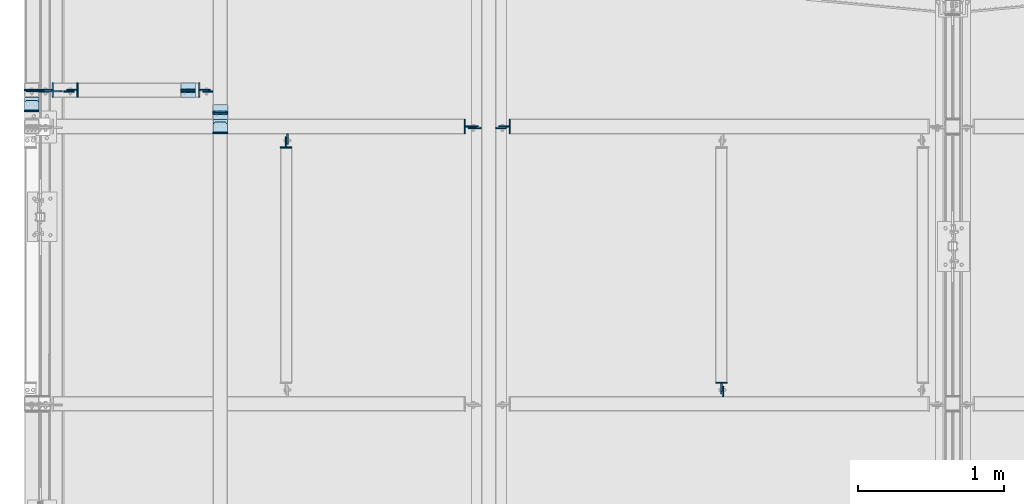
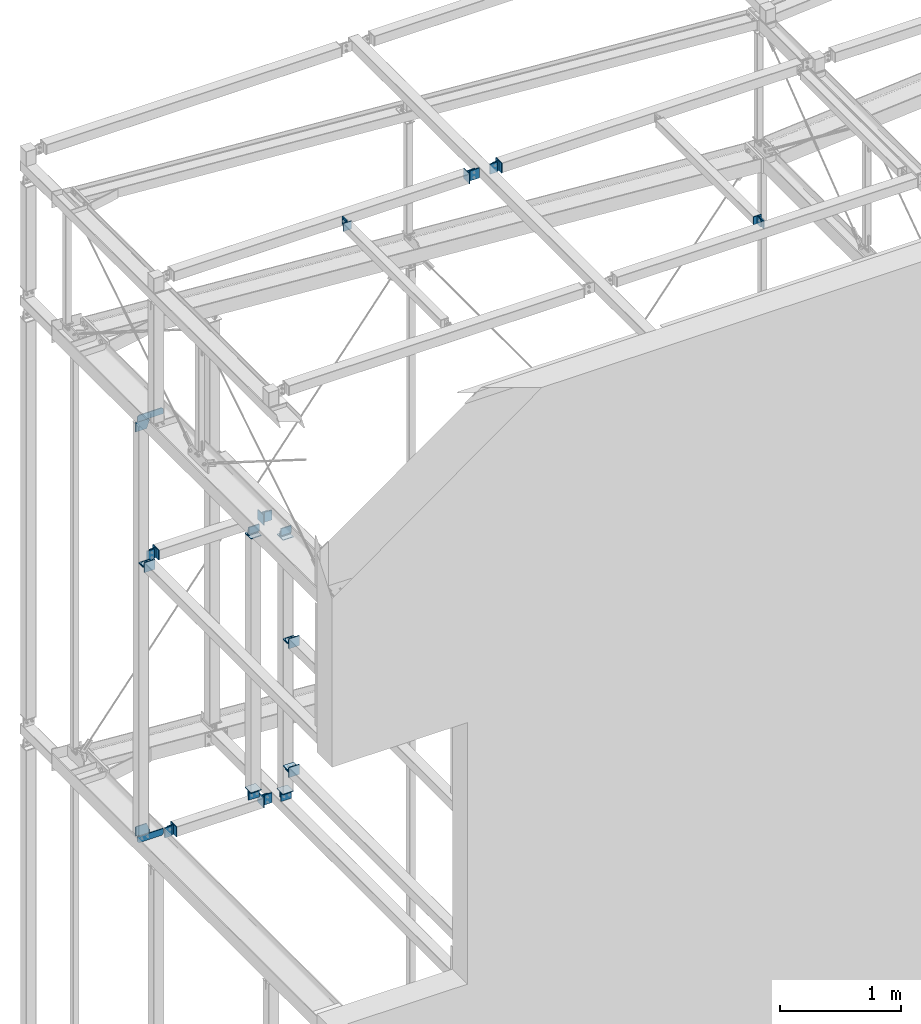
# One storey, part 115 of 271: 49 plates, 18 elements without a shape of their own.
"""IFC2X3 building model written with IfcOpenShell, lengths in millimetres."""

from ifc_helpers import new_model, si_unit, frame, origin_with_axes, place, context, subcontext, project, spatial, polyline, outline, extrude, material, type_object, element, aggregate, save


model = new_model("IFC2X3")

# Units and contexts
model_context = context("Model", 3, precision=1e-05, world=origin_with_axes())
body_context = subcontext(model_context, "Body", "Model", "MODEL_VIEW")
ifc_project = project(units=[si_unit("LENGTHUNIT", "METRE", prefix="MILLI"), si_unit("AREAUNIT", "SQUARE_METRE"), si_unit("VOLUMEUNIT", "CUBIC_METRE"), si_unit("MASSUNIT", "GRAM", prefix="KILO"), si_unit("TIMEUNIT", "SECOND"), si_unit("PLANEANGLEUNIT", "RADIAN"), si_unit("SOLIDANGLEUNIT", "STERADIAN"), si_unit("THERMODYNAMICTEMPERATUREUNIT", "DEGREE_CELSIUS"), si_unit("LUMINOUSINTENSITYUNIT", "LUMEN")], contexts=[model_context])

# Site, building, storey
site_placement = place(None, origin_with_axes())
site = spatial("IfcSite", under=ifc_project, at=site_placement, Name="Undefined", CompositionType="ELEMENT")
building_placement = place(site_placement, origin_with_axes())
building = spatial("IfcBuilding", under=site, at=building_placement, Name="Undefined", CompositionType="ELEMENT")
storey_placement = place(building_placement, origin_with_axes())
storey = spatial("IfcBuildingStorey", under=building, at=storey_placement, Name="Undefined", CompositionType="ELEMENT", Elevation=0.0)

# Assembly, plates
assembly_1_placement = place(storey_placement, origin_with_axes())
assembly_1 = element("IfcElementAssembly", 1, at=assembly_1_placement, inside=storey, AssemblyPlace="NOTDEFINED", PredefinedType="RIGID_FRAME")
ifc_material = material(Name="STEEL/S355JR")
plate_type_1 = type_object("IfcPlateType", Name="BL8*100", PredefinedType="NOTDEFINED")
plate_1_placement = place(assembly_1_placement, frame((1160.37568709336, 2999.0521198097, 14485.8499999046), z_axis=(0.0, 0.0, -1.0), x_axis=(-1.0, 0.0, 1.38777878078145e-17)))
plate_1 = element("IfcPlate", 2, at=plate_1_placement, type_object=plate_type_1, material=ifc_material, Name="BLACHA", ObjectType="BL8*100", context=body_context, shape_type="SweptSolid", body=[
    extrude(outline(polyline([(0.0, 0.0), (100.0, 0.0), (100.0, 100.0), (1.59161572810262e-12, 100.0), (0.0, 0.0)])), frame((0.0, 0.0, -4.0), z_axis=(0.0, 0.0, 1.0), x_axis=(1.0, 0.0, 0.0)), (0.0, 0.0, 1.0), 8.0),
])
plate_2_placement = place(assembly_1_placement, frame((1060.37568709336, 2999.0521198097, 17050.3499999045), z_axis=(0.0, 0.0, 1.0), x_axis=(1.0, 0.0, 0.0)))
plate_2 = element("IfcPlate", 3, at=plate_2_placement, type_object=plate_type_1, material=ifc_material, Name="BLACHA", ObjectType="BL8*100", context=body_context, shape_type="SweptSolid", body=[
    extrude(outline(polyline([(0.0, 0.0), (100.0, 0.0), (100.0, 100.0), (1.59161572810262e-12, 100.0), (0.0, 0.0)])), frame((0.0, 0.0, -4.0), z_axis=(0.0, 0.0, 1.0), x_axis=(1.0, 0.0, 0.0)), (0.0, 0.0, 1.0), 8.0),
])

# Assembly, plate
assembly_2_placement = place(storey_placement, origin_with_axes())
assembly_2 = element("IfcElementAssembly", 4, at=assembly_2_placement, inside=storey, AssemblyPlace="NOTDEFINED", PredefinedType="RIGID_FRAME")
plate_3_placement = place(assembly_2_placement, frame((1280.37568709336, 2755.0521198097, 14814.3499999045), z_axis=(0.0, 1.0, 0.0), x_axis=(1.0, 0.0, 0.0)))
plate_3 = element("IfcPlate", 5, at=plate_3_placement, type_object=plate_type_1, material=ifc_material, Name="BLACHA", ObjectType="BL8*100", context=body_context, shape_type="SweptSolid", body=[
    extrude(outline(polyline([(0.0, 0.0), (100.0, 0.0), (100.0, 100.0), (1.59161572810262e-12, 100.0), (0.0, 0.0)])), frame((0.0, 0.0, -4.0), z_axis=(0.0, 0.0, 1.0), x_axis=(1.0, 0.0, 0.0)), (0.0, 0.0, 1.0), 8.0),
])

assembly_3_placement = place(storey_placement, origin_with_axes())
assembly_3 = element("IfcElementAssembly", 6, at=assembly_3_placement, inside=storey, AssemblyPlace="NOTDEFINED", PredefinedType="RIGID_FRAME")
plate_4_placement = place(assembly_3_placement, frame((1380.37568709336, 2755.0521198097, 16014.3499999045), z_axis=(0.0, 1.0, 0.0), x_axis=(-1.0, 0.0, 1.38777878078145e-17)))
plate_4 = element("IfcPlate", 7, at=plate_4_placement, type_object=plate_type_1, material=ifc_material, Name="BLACHA", ObjectType="BL8*100", context=body_context, shape_type="SweptSolid", body=[
    extrude(outline(polyline([(0.0, 0.0), (100.0, 0.0), (100.0, 100.0), (1.59161572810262e-12, 100.0), (0.0, 0.0)])), frame((0.0, 0.0, -4.0), z_axis=(0.0, 0.0, 1.0), x_axis=(1.0, 0.0, 0.0)), (0.0, 0.0, 1.0), 8.0),
])

assembly_4_placement = place(storey_placement, origin_with_axes())
assembly_4 = element("IfcElementAssembly", 8, at=assembly_4_placement, inside=storey, AssemblyPlace="NOTDEFINED", PredefinedType="RIGID_FRAME")
plate_5_placement = place(assembly_4_placement, frame((88.3756870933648, 2905.05211980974, 17144.3499999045), z_axis=(0.0, 1.0, 0.0), x_axis=(-1.0, 0.0, 1.38777878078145e-17)))
plate_5 = element("IfcPlate", 9, at=plate_5_placement, type_object=plate_type_1, material=ifc_material, Name="BLACHA", ObjectType="BL8*100", context=body_context, shape_type="SweptSolid", body=[
    extrude(outline(polyline([(0.0, 0.0), (100.0, 0.0), (100.0, 100.0), (1.59161572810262e-12, 100.0), (0.0, 0.0)])), frame((0.0, 0.0, -4.0), z_axis=(0.0, 0.0, 1.0), x_axis=(1.0, 0.0, 0.0)), (0.0, 0.0, 1.0), 8.0),
])

assembly_5_placement = place(storey_placement, origin_with_axes())
assembly_5 = element("IfcElementAssembly", 10, at=assembly_5_placement, inside=storey, AssemblyPlace="NOTDEFINED", PredefinedType="RIGID_FRAME")
plate_6_placement = place(assembly_5_placement, frame((182.375687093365, 2999.05211980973, 17144.3499999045), z_axis=(-1.0, 0.0, 1.38777878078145e-17), x_axis=(0.0, 0.0, 1.0)))
plate_6 = element("IfcPlate", 11, at=plate_6_placement, type_object=plate_type_1, material=ifc_material, Name="BLACHA", ObjectType="BL8*100", context=body_context, shape_type="SweptSolid", body=[
    extrude(outline(polyline([(0.0, 0.0), (100.0, 0.0), (100.0, 100.0), (1.59161572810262e-12, 100.0), (0.0, 0.0)])), frame((0.0, 0.0, -4.0), z_axis=(0.0, 0.0, 1.0), x_axis=(1.0, 0.0, 0.0)), (0.0, 0.0, 1.0), 8.0),
])

assembly_6_placement = place(storey_placement, origin_with_axes())
assembly_6 = element("IfcElementAssembly", 12, at=assembly_6_placement, inside=storey, AssemblyPlace="NOTDEFINED", PredefinedType="RIGID_FRAME")
plate_7_placement = place(assembly_6_placement, frame((352.375687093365, 2999.0521198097, 14291.8499999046), z_axis=(-1.0, 0.0, 1.38777878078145e-17), x_axis=(0.0, 0.0, 1.0)))
plate_7 = element("IfcPlate", 13, at=plate_7_placement, type_object=plate_type_1, material=ifc_material, Name="BLACHA", ObjectType="BL8*100", context=body_context, shape_type="SweptSolid", body=[
    extrude(outline(polyline([(0.0, 0.0), (100.0, 0.0), (100.0, 100.0), (1.59161572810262e-12, 100.0), (0.0, 0.0)])), frame((0.0, 0.0, -4.0), z_axis=(0.0, 0.0, 1.0), x_axis=(1.0, 0.0, 0.0)), (0.0, 0.0, 1.0), 8.0),
])

# Plate
plate_8_placement = place(assembly_5_placement, frame((1186.37568709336, 2999.05211980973, 17244.3499999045), z_axis=(1.0, 0.0, 0.0), x_axis=(0.0, 0.0, -1.0)))
plate_8 = element("IfcPlate", 14, at=plate_8_placement, type_object=plate_type_1, material=ifc_material, Name="BLACHA", ObjectType="BL8*100", context=body_context, shape_type="SweptSolid", body=[
    extrude(outline(polyline([(0.0, 0.0), (100.0, 0.0), (100.0, 100.0), (1.59161572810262e-12, 100.0), (0.0, 0.0)])), frame((0.0, 0.0, -4.0), z_axis=(0.0, 0.0, 1.0), x_axis=(1.0, 0.0, 0.0)), (0.0, 0.0, 1.0), 8.0),
])

plate_9_placement = place(assembly_6_placement, frame((1186.37568709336, 2999.0521198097, 14391.8499999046), z_axis=(1.0, 0.0, 0.0), x_axis=(0.0, 0.0, -1.0)))
plate_9 = element("IfcPlate", 15, at=plate_9_placement, type_object=plate_type_1, material=ifc_material, Name="BLACHA", ObjectType="BL8*100", context=body_context, shape_type="SweptSolid", body=[
    extrude(outline(polyline([(0.0, 0.0), (100.0, 0.0), (100.0, 100.0), (1.59161572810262e-12, 100.0), (0.0, 0.0)])), frame((0.0, 0.0, -4.0), z_axis=(0.0, 0.0, 1.0), x_axis=(1.0, 0.0, 0.0)), (0.0, 0.0, 1.0), 8.0),
])

# Assembly, plates
assembly_7_placement = place(storey_placement, origin_with_axes())
assembly_7 = element("IfcElementAssembly", 16, at=assembly_7_placement, inside=storey, AssemblyPlace="NOTDEFINED", PredefinedType="RIGID_FRAME")
plate_10_placement = place(assembly_7_placement, frame((1280.37568709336, 2849.0521198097, 17050.3499999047), z_axis=(0.0, 0.0, 1.0), x_axis=(1.0, 0.0, 0.0)))
plate_10 = element("IfcPlate", 17, at=plate_10_placement, type_object=plate_type_1, material=ifc_material, Name="BLACHA", ObjectType="BL8*100", context=body_context, shape_type="SweptSolid", body=[
    extrude(outline(polyline([(0.0, 0.0), (100.0, 0.0), (100.0, 100.0), (1.59161572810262e-12, 100.0), (0.0, 0.0)])), frame((0.0, 0.0, -4.0), z_axis=(0.0, 0.0, 1.0), x_axis=(1.0, 0.0, 0.0)), (0.0, 0.0, 1.0), 8.0),
])
plate_11_placement = place(assembly_7_placement, frame((1380.37568709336, 2849.0521198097, 14485.8499999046), z_axis=(0.0, 0.0, -1.0), x_axis=(-1.0, 0.0, 1.38777878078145e-17)))
plate_11 = element("IfcPlate", 18, at=plate_11_placement, type_object=plate_type_1, material=ifc_material, Name="BLACHA", ObjectType="BL8*100", context=body_context, shape_type="SweptSolid", body=[
    extrude(outline(polyline([(0.0, 0.0), (100.0, 0.0), (100.0, 100.0), (1.59161572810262e-12, 100.0), (0.0, 0.0)])), frame((0.0, 0.0, -4.0), z_axis=(0.0, 0.0, 1.0), x_axis=(1.0, 0.0, 0.0)), (0.0, 0.0, 1.0), 8.0),
])

# Assembly, plate
assembly_8_placement = place(storey_placement, origin_with_axes())
assembly_8 = element("IfcElementAssembly", 19, at=assembly_8_placement, inside=storey, AssemblyPlace="NOTDEFINED", PredefinedType="RIGID_FRAME")
plate_12_placement = place(assembly_8_placement, frame((3312.37568709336, 2749.32498425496, 20104.3499999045), z_axis=(-1.0, 0.0, 1.38777878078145e-17), x_axis=(0.0, 0.0, 1.0)))
plate_12 = element("IfcPlate", 20, at=plate_12_placement, type_object=plate_type_1, material=ifc_material, Name="BLACHA", ObjectType="BL8*100", context=body_context, shape_type="SweptSolid", body=[
    extrude(outline(polyline([(0.0, 0.0), (100.0, 0.0), (100.0, 100.0), (1.59161572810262e-12, 100.0), (0.0, 0.0)])), frame((0.0, 0.0, -4.0), z_axis=(0.0, 0.0, 1.0), x_axis=(1.0, 0.0, 0.0)), (0.0, 0.0, 1.0), 8.0),
])

assembly_9_placement = place(storey_placement, origin_with_axes())
assembly_9 = element("IfcElementAssembly", 21, at=assembly_9_placement, inside=storey, AssemblyPlace="NOTDEFINED", PredefinedType="RIGID_FRAME")
plate_13_placement = place(assembly_9_placement, frame((3004.37568709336, 2749.32498425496, 20204.3499999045), z_axis=(1.0, 0.0, 0.0), x_axis=(0.0, 0.0, -1.0)))
plate_13 = element("IfcPlate", 22, at=plate_13_placement, type_object=plate_type_1, material=ifc_material, Name="BLACHA", ObjectType="BL8*100", context=body_context, shape_type="SweptSolid", body=[
    extrude(outline(polyline([(0.0, 0.0), (100.0, 0.0), (100.0, 100.0), (1.59161572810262e-12, 100.0), (0.0, 0.0)])), frame((0.0, 0.0, -4.0), z_axis=(0.0, 0.0, 1.0), x_axis=(1.0, 0.0, 0.0)), (0.0, 0.0, 1.0), 8.0),
])

# Plate
plate_type_2 = type_object("IfcPlateType", Name="BL10*70", PredefinedType="NOTDEFINED")
plate_14_placement = place(assembly_1_placement, frame((1160.37568709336, 3049.0521198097, 14426.8499999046), z_axis=(0.0, 1.0, 0.0), x_axis=(-0.707106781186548, 0.0, -0.707106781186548)))
plate_14 = element("IfcPlate", 23, at=plate_14_placement, type_object=plate_type_2, material=ifc_material, Name="BLACHA", ObjectType="BL10*70", context=body_context, shape_type="SweptSolid", body=[
    extrude(outline(polyline([(0.0, 0.0), (21.2132034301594, 1.09139364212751e-11), (70.7106781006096, 49.4974746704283), (70.7106781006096, 70.7106781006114), (31.8198051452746, 109.601554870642), (-38.890872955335, 38.8908729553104), (0.0, 0.0)])), frame((0.0, 0.0, -5.0), z_axis=(0.0, 0.0, 1.0), x_axis=(1.0, 0.0, 0.0)), (0.0, 0.0, 1.0), 10.0),
])

plate_15_placement = place(assembly_6_placement, frame((1160.37568709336, 3039.0521198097, 14391.8499999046), z_axis=(0.0, 1.0, 0.0), x_axis=(-1.0, 0.0, 1.38777878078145e-17)))
plate_15 = element("IfcPlate", 24, at=plate_15_placement, type_object=plate_type_2, material=ifc_material, Name="BLACHA", ObjectType="BL10*70", context=body_context, shape_type="SweptSolid", body=[
    extrude(outline(polyline([(0.0, 0.0), (100.0, 0.0), (100.0, 70.0), (0.0, 70.0), (0.0, 0.0)])), frame((0.0, 0.0, -5.0), z_axis=(0.0, 0.0, 1.0), x_axis=(1.0, 0.0, 0.0)), (0.0, 0.0, 1.0), 10.0),
])

plate_16_placement = place(assembly_1_placement, frame((1060.37568709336, 3049.0521198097, 17109.3499999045), z_axis=(0.0, 1.0, 0.0), x_axis=(0.707106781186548, 0.0, 0.707106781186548)))
plate_16 = element("IfcPlate", 25, at=plate_16_placement, type_object=plate_type_2, material=ifc_material, Name="BLACHA", ObjectType="BL10*70", context=body_context, shape_type="SweptSolid", body=[
    extrude(outline(polyline([(0.0, 0.0), (21.2132034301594, 1.09139364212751e-11), (70.7106781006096, 49.4974746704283), (70.7106781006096, 70.7106781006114), (31.8198051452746, 109.601554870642), (-38.890872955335, 38.8908729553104), (0.0, 0.0)])), frame((0.0, 0.0, -5.0), z_axis=(0.0, 0.0, 1.0), x_axis=(1.0, 0.0, 0.0)), (0.0, 0.0, 1.0), 10.0),
])

aggregate(assembly_1, [plate_1, plate_14, plate_2, plate_16])

plate_17_placement = place(assembly_5_placement, frame((1060.37568709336, 3039.0521198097, 17144.3499999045), z_axis=(0.0, 1.0, 0.0), x_axis=(1.0, 0.0, 0.0)))
plate_17 = element("IfcPlate", 26, at=plate_17_placement, type_object=plate_type_2, material=ifc_material, Name="BLACHA", ObjectType="BL10*70", context=body_context, shape_type="SweptSolid", body=[
    extrude(outline(polyline([(0.0, 0.0), (100.0, 0.0), (100.0, 70.0), (0.0, 70.0), (0.0, 0.0)])), frame((0.0, 0.0, -5.0), z_axis=(0.0, 0.0, 1.0), x_axis=(1.0, 0.0, 0.0)), (0.0, 0.0, 1.0), 10.0),
])

# Assembly, plate
assembly_10_placement = place(storey_placement, origin_with_axes())
assembly_10 = element("IfcElementAssembly", 27, at=assembly_10_placement, inside=storey, AssemblyPlace="NOTDEFINED", PredefinedType="RIGID_FRAME")
plate_18_placement = place(assembly_10_placement, frame((4763.37568709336, 984.32498425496, 20124.3499999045), z_axis=(-1.0, 0.0, 1.38777878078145e-17), x_axis=(0.0, -0.707106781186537, 0.707106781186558)))
plate_18 = element("IfcPlate", 28, at=plate_18_placement, type_object=plate_type_2, material=ifc_material, Name="BLACHA", ObjectType="BL10*70", context=body_context, shape_type="SweptSolid", body=[
    extrude(outline(polyline([(0.0, 0.0), (21.2132034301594, 1.09139364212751e-11), (56.5685424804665, 35.3553390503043), (56.568542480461, 56.5685424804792), (17.6776695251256, 95.4594192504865), (-38.890872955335, 38.8908729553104), (0.0, 0.0)])), frame((0.0, 0.0, -5.0), z_axis=(0.0, 0.0, 1.0), x_axis=(1.0, 0.0, 0.0)), (0.0, 0.0, 1.0), 10.0),
])

assembly_11_placement = place(storey_placement, origin_with_axes())
assembly_11 = element("IfcElementAssembly", 29, at=assembly_11_placement, inside=storey, AssemblyPlace="NOTDEFINED", PredefinedType="RIGID_FRAME")
plate_19_placement = place(assembly_11_placement, frame((4773.37568709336, 949.32498425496, 20124.3499999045), z_axis=(-1.0, 0.0, 1.38777878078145e-17), x_axis=(0.0, 0.0, 1.0)))
plate_19 = element("IfcPlate", 30, at=plate_19_placement, type_object=plate_type_2, material=ifc_material, Name="BLACHA", ObjectType="BL10*70", context=body_context, shape_type="SweptSolid", body=[
    extrude(outline(polyline([(0.0, 0.0), (80.0, 0.0), (80.0, 70.0), (0.0, 70.0), (0.0, 0.0)])), frame((0.0, 0.0, -5.0), z_axis=(0.0, 0.0, 1.0), x_axis=(1.0, 0.0, 0.0)), (0.0, 0.0, 1.0), 10.0),
])
aggregate(assembly_11, [plate_19])

assembly_12_placement = place(storey_placement, origin_with_axes())
assembly_12 = element("IfcElementAssembly", 31, at=assembly_12_placement, inside=storey, AssemblyPlace="NOTDEFINED", PredefinedType="RIGID_FRAME")
plate_20_placement = place(assembly_12_placement, frame((1781.37568709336, 2714.32498425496, 20204.3499999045), z_axis=(-1.0, 0.0, 1.38777878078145e-17), x_axis=(0.0, 0.707106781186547, -0.707106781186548)))
plate_20 = element("IfcPlate", 32, at=plate_20_placement, type_object=plate_type_2, material=ifc_material, Name="BLACHA", ObjectType="BL10*70", context=body_context, shape_type="SweptSolid", body=[
    extrude(outline(polyline([(0.0, 0.0), (21.2132034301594, 1.09139364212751e-11), (56.5685424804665, 35.3553390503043), (56.568542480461, 56.5685424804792), (17.6776695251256, 95.4594192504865), (-38.890872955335, 38.8908729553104), (0.0, 0.0)])), frame((0.0, 0.0, -5.0), z_axis=(0.0, 0.0, 1.0), x_axis=(1.0, 0.0, 0.0)), (0.0, 0.0, 1.0), 10.0),
])

# Plate
plate_21_placement = place(assembly_9_placement, frame((1791.37568709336, 2749.32498425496, 20204.3499999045), z_axis=(-1.0, 0.0, 1.38777878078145e-17), x_axis=(0.0, 0.0, -1.0)))
plate_21 = element("IfcPlate", 33, at=plate_21_placement, type_object=plate_type_2, material=ifc_material, Name="BLACHA", ObjectType="BL10*70", context=body_context, shape_type="SweptSolid", body=[
    extrude(outline(polyline([(0.0, 0.0), (80.0, 0.0), (80.0, 70.0), (0.0, 70.0), (0.0, 0.0)])), frame((0.0, 0.0, -5.0), z_axis=(0.0, 0.0, 1.0), x_axis=(1.0, 0.0, 0.0)), (0.0, 0.0, 1.0), 10.0),
])

plate_22_placement = place(assembly_2_placement, frame((1280.37568709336, 2814.0521198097, 14764.3499999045), z_axis=(0.0, 0.0, -1.0), x_axis=(0.707106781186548, 0.707106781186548, 0.0)))
plate_22 = element("IfcPlate", 34, at=plate_22_placement, type_object=plate_type_2, material=ifc_material, Name="BLACHA", ObjectType="BL10*70", context=body_context, shape_type="SweptSolid", body=[
    extrude(outline(polyline([(0.0, 0.0), (21.2132034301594, 1.09139364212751e-11), (70.7106781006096, 49.4974746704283), (70.7106781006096, 70.7106781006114), (31.8198051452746, 109.601554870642), (-38.890872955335, 38.8908729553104), (0.0, 0.0)])), frame((0.0, 0.0, -5.0), z_axis=(0.0, 0.0, 1.0), x_axis=(1.0, 0.0, 0.0)), (0.0, 0.0, 1.0), 10.0),
])

aggregate(assembly_2, [plate_3, plate_22])

plate_23_placement = place(assembly_7_placement, frame((1280.37568709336, 2849.0521198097, 14774.3499999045), z_axis=(0.0, 0.0, -1.0), x_axis=(1.0, 0.0, 0.0)))
plate_23 = element("IfcPlate", 35, at=plate_23_placement, type_object=plate_type_2, material=ifc_material, Name="BLACHA", ObjectType="BL10*70", context=body_context, shape_type="SweptSolid", body=[
    extrude(outline(polyline([(0.0, 0.0), (100.0, 0.0), (100.0, 70.0), (0.0, 70.0), (0.0, 0.0)])), frame((0.0, 0.0, -5.0), z_axis=(0.0, 0.0, 1.0), x_axis=(1.0, 0.0, 0.0)), (0.0, 0.0, 1.0), 10.0),
])

plate_24_placement = place(assembly_3_placement, frame((1380.37568709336, 2814.0521198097, 16064.3499999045), z_axis=(0.0, 0.0, 1.0), x_axis=(-0.707106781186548, 0.707106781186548, 0.0)))
plate_24 = element("IfcPlate", 36, at=plate_24_placement, type_object=plate_type_2, material=ifc_material, Name="BLACHA", ObjectType="BL10*70", context=body_context, shape_type="SweptSolid", body=[
    extrude(outline(polyline([(0.0, 0.0), (21.2132034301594, 1.09139364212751e-11), (70.7106781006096, 49.4974746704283), (70.7106781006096, 70.7106781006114), (31.8198051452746, 109.601554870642), (-38.890872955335, 38.8908729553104), (0.0, 0.0)])), frame((0.0, 0.0, -5.0), z_axis=(0.0, 0.0, 1.0), x_axis=(1.0, 0.0, 0.0)), (0.0, 0.0, 1.0), 10.0),
])

aggregate(assembly_3, [plate_4, plate_24])

plate_25_placement = place(assembly_7_placement, frame((1380.37568709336, 2849.0521198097, 16054.3499999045), z_axis=(0.0, 0.0, 1.0), x_axis=(-1.0, 0.0, 1.38777878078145e-17)))
plate_25 = element("IfcPlate", 37, at=plate_25_placement, type_object=plate_type_2, material=ifc_material, Name="BLACHA", ObjectType="BL10*70", context=body_context, shape_type="SweptSolid", body=[
    extrude(outline(polyline([(0.0, 0.0), (100.0, 0.0), (100.0, 70.0), (0.0, 70.0), (0.0, 0.0)])), frame((0.0, 0.0, -5.0), z_axis=(0.0, 0.0, 1.0), x_axis=(1.0, 0.0, 0.0)), (0.0, 0.0, 1.0), 10.0),
])

plate_26_placement = place(assembly_4_placement, frame((88.3756870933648, 2964.05211980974, 17194.3499999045), z_axis=(0.0, 0.0, 1.0), x_axis=(-0.707106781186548, 0.707106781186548, 0.0)))
plate_26 = element("IfcPlate", 38, at=plate_26_placement, type_object=plate_type_2, material=ifc_material, Name="BLACHA", ObjectType="BL10*70", context=body_context, shape_type="SweptSolid", body=[
    extrude(outline(polyline([(0.0, 0.0), (21.2132034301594, 1.09139364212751e-11), (70.7106781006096, 49.4974746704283), (70.7106781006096, 70.7106781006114), (31.8198051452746, 109.601554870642), (-38.890872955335, 38.8908729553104), (0.0, 0.0)])), frame((0.0, 0.0, -5.0), z_axis=(0.0, 0.0, 1.0), x_axis=(1.0, 0.0, 0.0)), (0.0, 0.0, 1.0), 10.0),
])

aggregate(assembly_4, [plate_5, plate_26])

# Assembly, plate
assembly_13_placement = place(storey_placement, origin_with_axes())
assembly_13 = element("IfcElementAssembly", 39, at=assembly_13_placement, inside=storey, AssemblyPlace="NOTDEFINED", PredefinedType="RIGID_FRAME")
plate_27_placement = place(assembly_13_placement, frame((88.3756870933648, 2999.05211980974, 17184.3499999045), z_axis=(0.0, 0.0, 1.0), x_axis=(-1.0, 0.0, 1.38777878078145e-17)))
plate_27 = element("IfcPlate", 40, at=plate_27_placement, type_object=plate_type_2, material=ifc_material, Name="BLACHA", ObjectType="BL10*70", context=body_context, shape_type="SweptSolid", body=[
    extrude(outline(polyline([(0.0, 0.0), (100.0, 0.0), (100.0, 70.0), (0.0, 70.0), (0.0, 0.0)])), frame((0.0, 0.0, -5.0), z_axis=(0.0, 0.0, 1.0), x_axis=(1.0, 0.0, 0.0)), (0.0, 0.0, 1.0), 10.0),
])

# Plate
plate_28_placement = place(assembly_5_placement, frame((123.375687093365, 3049.05211980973, 17144.3499999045), z_axis=(0.0, 1.0, 0.0), x_axis=(-0.707106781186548, 0.0, 0.707106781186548)))
plate_28 = element("IfcPlate", 41, at=plate_28_placement, type_object=plate_type_2, material=ifc_material, Name="BLACHA", ObjectType="BL10*70", context=body_context, shape_type="SweptSolid", body=[
    extrude(outline(polyline([(0.0, 0.0), (21.2132034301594, 1.09139364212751e-11), (70.7106781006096, 49.4974746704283), (70.7106781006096, 70.7106781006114), (31.8198051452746, 109.601554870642), (-38.890872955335, 38.8908729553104), (0.0, 0.0)])), frame((0.0, 0.0, -5.0), z_axis=(0.0, 0.0, 1.0), x_axis=(1.0, 0.0, 0.0)), (0.0, 0.0, 1.0), 10.0),
])

plate_29_placement = place(assembly_13_placement, frame((88.3756870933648, 3039.05211980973, 17144.3499999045), z_axis=(0.0, 1.0, 0.0), x_axis=(0.0, 0.0, 1.0)))
plate_29 = element("IfcPlate", 42, at=plate_29_placement, type_object=plate_type_2, material=ifc_material, Name="BLACHA", ObjectType="BL10*70", context=body_context, shape_type="SweptSolid", body=[
    extrude(outline(polyline([(0.0, 0.0), (100.0, 0.0), (100.0, 70.0), (0.0, 70.0), (0.0, 0.0)])), frame((0.0, 0.0, -5.0), z_axis=(0.0, 0.0, 1.0), x_axis=(1.0, 0.0, 0.0)), (0.0, 0.0, 1.0), 10.0),
])

plate_30_placement = place(assembly_6_placement, frame((293.375687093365, 3049.0521198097, 14291.8499999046), z_axis=(0.0, 1.0, 0.0), x_axis=(-0.707106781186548, 0.0, 0.707106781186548)))
plate_30 = element("IfcPlate", 43, at=plate_30_placement, type_object=plate_type_2, material=ifc_material, Name="BLACHA", ObjectType="BL10*70", context=body_context, shape_type="SweptSolid", body=[
    extrude(outline(polyline([(0.0, 0.0), (21.2132034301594, 1.09139364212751e-11), (70.7106781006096, 49.4974746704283), (70.7106781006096, 70.7106781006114), (31.8198051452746, 109.601554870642), (-38.890872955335, 38.8908729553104), (0.0, 0.0)])), frame((0.0, 0.0, -5.0), z_axis=(0.0, 0.0, 1.0), x_axis=(1.0, 0.0, 0.0)), (0.0, 0.0, 1.0), 10.0),
])

# Assembly, plate
assembly_14_placement = place(storey_placement, origin_with_axes())
assembly_14 = element("IfcElementAssembly", 44, at=assembly_14_placement, inside=storey, AssemblyPlace="NOTDEFINED", PredefinedType="RIGID_FRAME")
plate_31_placement = place(assembly_14_placement, frame((258.375687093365, 3039.0521198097, 14291.8499999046), z_axis=(0.0, 1.0, 0.0), x_axis=(0.0, 0.0, 1.0)))
plate_31 = element("IfcPlate", 45, at=plate_31_placement, type_object=plate_type_2, material=ifc_material, Name="BLACHA", ObjectType="BL10*70", context=body_context, shape_type="SweptSolid", body=[
    extrude(outline(polyline([(0.0, 0.0), (100.0, 0.0), (100.0, 70.0), (0.0, 70.0), (0.0, 0.0)])), frame((0.0, 0.0, -5.0), z_axis=(0.0, 0.0, 1.0), x_axis=(1.0, 0.0, 0.0)), (0.0, 0.0, 1.0), 10.0),
])

# Plate
plate_32_placement = place(assembly_5_placement, frame((1245.37568709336, 3049.05211980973, 17244.3499999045), z_axis=(0.0, 1.0, 0.0), x_axis=(0.70710678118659, 0.0, -0.707106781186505)))
plate_32 = element("IfcPlate", 46, at=plate_32_placement, type_object=plate_type_2, material=ifc_material, Name="BLACHA", ObjectType="BL10*70", context=body_context, shape_type="SweptSolid", body=[
    extrude(outline(polyline([(0.0, 0.0), (21.2132034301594, 1.09139364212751e-11), (70.7106781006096, 49.4974746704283), (70.7106781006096, 70.7106781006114), (31.8198051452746, 109.601554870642), (-38.890872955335, 38.8908729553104), (0.0, 0.0)])), frame((0.0, 0.0, -5.0), z_axis=(0.0, 0.0, 1.0), x_axis=(1.0, 0.0, 0.0)), (0.0, 0.0, 1.0), 10.0),
])

aggregate(assembly_5, [plate_17, plate_6, plate_28, plate_8, plate_32])

# Assembly, plate
assembly_15_placement = place(storey_placement, origin_with_axes())
assembly_15 = element("IfcElementAssembly", 47, at=assembly_15_placement, inside=storey, AssemblyPlace="NOTDEFINED", PredefinedType="RIGID_FRAME")
plate_33_placement = place(assembly_15_placement, frame((1280.37568709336, 3039.05211980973, 17244.3499999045), z_axis=(0.0, 1.0, 0.0), x_axis=(0.0, 0.0, -1.0)))
plate_33 = element("IfcPlate", 48, at=plate_33_placement, type_object=plate_type_2, material=ifc_material, Name="BLACHA", ObjectType="BL10*70", context=body_context, shape_type="SweptSolid", body=[
    extrude(outline(polyline([(0.0, 0.0), (100.0, 0.0), (100.0, 70.0), (0.0, 70.0), (0.0, 0.0)])), frame((0.0, 0.0, -5.0), z_axis=(0.0, 0.0, 1.0), x_axis=(1.0, 0.0, 0.0)), (0.0, 0.0, 1.0), 10.0),
])

# Plate
plate_34_placement = place(assembly_6_placement, frame((1245.37568709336, 3049.0521198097, 14391.8499999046), z_axis=(0.0, 1.0, 0.0), x_axis=(0.70710678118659, 0.0, -0.707106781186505)))
plate_34 = element("IfcPlate", 49, at=plate_34_placement, type_object=plate_type_2, material=ifc_material, Name="BLACHA", ObjectType="BL10*70", context=body_context, shape_type="SweptSolid", body=[
    extrude(outline(polyline([(0.0, 0.0), (21.2132034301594, 1.09139364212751e-11), (70.7106781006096, 49.4974746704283), (70.7106781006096, 70.7106781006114), (31.8198051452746, 109.601554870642), (-38.890872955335, 38.8908729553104), (0.0, 0.0)])), frame((0.0, 0.0, -5.0), z_axis=(0.0, 0.0, 1.0), x_axis=(1.0, 0.0, 0.0)), (0.0, 0.0, 1.0), 10.0),
])

aggregate(assembly_6, [plate_15, plate_7, plate_30, plate_9, plate_34])

# Assembly, plate
assembly_16_placement = place(storey_placement, origin_with_axes())
assembly_16 = element("IfcElementAssembly", 50, at=assembly_16_placement, inside=storey, AssemblyPlace="NOTDEFINED", PredefinedType="RIGID_FRAME")
plate_35_placement = place(assembly_16_placement, frame((1280.37568709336, 3039.0521198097, 14391.8499999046), z_axis=(0.0, 1.0, 0.0), x_axis=(0.0, 0.0, -1.0)))
plate_35 = element("IfcPlate", 51, at=plate_35_placement, type_object=plate_type_2, material=ifc_material, Name="BLACHA", ObjectType="BL10*70", context=body_context, shape_type="SweptSolid", body=[
    extrude(outline(polyline([(0.0, 0.0), (100.0, 0.0), (100.0, 70.0), (0.0, 70.0), (0.0, 0.0)])), frame((0.0, 0.0, -5.0), z_axis=(0.0, 0.0, 1.0), x_axis=(1.0, 0.0, 0.0)), (0.0, 0.0, 1.0), 10.0),
])

# Plate
plate_36_placement = place(assembly_7_placement, frame((1280.37568709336, 2899.0521198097, 17109.3499999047), z_axis=(0.0, 1.0, 0.0), x_axis=(0.707106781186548, 0.0, 0.707106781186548)))
plate_36 = element("IfcPlate", 52, at=plate_36_placement, type_object=plate_type_2, material=ifc_material, Name="BLACHA", ObjectType="BL10*70", context=body_context, shape_type="SweptSolid", body=[
    extrude(outline(polyline([(0.0, 0.0), (21.2132034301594, 1.09139364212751e-11), (70.7106781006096, 49.4974746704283), (70.7106781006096, 70.7106781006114), (31.8198051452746, 109.601554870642), (-38.890872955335, 38.8908729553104), (0.0, 0.0)])), frame((0.0, 0.0, -5.0), z_axis=(0.0, 0.0, 1.0), x_axis=(1.0, 0.0, 0.0)), (0.0, 0.0, 1.0), 10.0),
])

plate_37_placement = place(assembly_15_placement, frame((1280.37568709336, 2889.0521198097, 17144.3499999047), z_axis=(0.0, 1.0, 0.0), x_axis=(1.0, 0.0, 0.0)))
plate_37 = element("IfcPlate", 53, at=plate_37_placement, type_object=plate_type_2, material=ifc_material, Name="BLACHA", ObjectType="BL10*70", context=body_context, shape_type="SweptSolid", body=[
    extrude(outline(polyline([(0.0, 0.0), (100.0, 0.0), (100.0, 70.0), (0.0, 70.0), (0.0, 0.0)])), frame((0.0, 0.0, -5.0), z_axis=(0.0, 0.0, 1.0), x_axis=(1.0, 0.0, 0.0)), (0.0, 0.0, 1.0), 10.0),
])

aggregate(assembly_15, [plate_33, plate_37])

plate_38_placement = place(assembly_7_placement, frame((1380.37568709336, 2899.0521198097, 14426.8499999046), z_axis=(0.0, 1.0, 0.0), x_axis=(-0.707106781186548, 0.0, -0.707106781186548)))
plate_38 = element("IfcPlate", 54, at=plate_38_placement, type_object=plate_type_2, material=ifc_material, Name="BLACHA", ObjectType="BL10*70", context=body_context, shape_type="SweptSolid", body=[
    extrude(outline(polyline([(0.0, 0.0), (21.2132034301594, 1.09139364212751e-11), (70.7106781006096, 49.4974746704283), (70.7106781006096, 70.7106781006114), (31.8198051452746, 109.601554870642), (-38.890872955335, 38.8908729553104), (0.0, 0.0)])), frame((0.0, 0.0, -5.0), z_axis=(0.0, 0.0, 1.0), x_axis=(1.0, 0.0, 0.0)), (0.0, 0.0, 1.0), 10.0),
])

aggregate(assembly_7, [plate_23, plate_25, plate_10, plate_36, plate_11, plate_38])

plate_39_placement = place(assembly_16_placement, frame((1380.37568709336, 2889.0521198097, 14391.8499999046), z_axis=(0.0, 1.0, 0.0), x_axis=(-1.0, 0.0, 1.38777878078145e-17)))
plate_39 = element("IfcPlate", 55, at=plate_39_placement, type_object=plate_type_2, material=ifc_material, Name="BLACHA", ObjectType="BL10*70", context=body_context, shape_type="SweptSolid", body=[
    extrude(outline(polyline([(0.0, 0.0), (100.0, 0.0), (100.0, 70.0), (0.0, 70.0), (0.0, 0.0)])), frame((0.0, 0.0, -5.0), z_axis=(0.0, 0.0, 1.0), x_axis=(1.0, 0.0, 0.0)), (0.0, 0.0, 1.0), 10.0),
])

aggregate(assembly_16, [plate_35, plate_39])

plate_40_placement = place(assembly_8_placement, frame((3253.37568709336, 2799.32498425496, 20104.3499999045), z_axis=(0.0, 1.0, 0.0), x_axis=(-0.707106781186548, 0.0, 0.707106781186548)))
plate_40 = element("IfcPlate", 56, at=plate_40_placement, type_object=plate_type_2, material=ifc_material, Name="BLACHA", ObjectType="BL10*70", context=body_context, shape_type="SweptSolid", body=[
    extrude(outline(polyline([(0.0, 0.0), (21.2132034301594, 1.09139364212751e-11), (70.7106781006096, 49.4974746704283), (70.7106781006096, 70.7106781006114), (31.8198051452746, 109.601554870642), (-38.890872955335, 38.8908729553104), (0.0, 0.0)])), frame((0.0, 0.0, -5.0), z_axis=(0.0, 0.0, 1.0), x_axis=(1.0, 0.0, 0.0)), (0.0, 0.0, 1.0), 10.0),
])

aggregate(assembly_8, [plate_12, plate_40])

# Assembly, plate
assembly_17_placement = place(storey_placement, origin_with_axes())
assembly_17 = element("IfcElementAssembly", 57, at=assembly_17_placement, inside=storey, AssemblyPlace="NOTDEFINED", PredefinedType="RIGID_FRAME")
plate_41_placement = place(assembly_17_placement, frame((3218.37568709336, 2789.32498425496, 20104.3499999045), z_axis=(0.0, 1.0, 0.0), x_axis=(0.0, 0.0, 1.0)))
plate_41 = element("IfcPlate", 58, at=plate_41_placement, type_object=plate_type_2, material=ifc_material, Name="BLACHA", ObjectType="BL10*70", context=body_context, shape_type="SweptSolid", body=[
    extrude(outline(polyline([(0.0, 0.0), (100.0, 0.0), (100.0, 70.0), (0.0, 70.0), (0.0, 0.0)])), frame((0.0, 0.0, -5.0), z_axis=(0.0, 0.0, 1.0), x_axis=(1.0, 0.0, 0.0)), (0.0, 0.0, 1.0), 10.0),
])

# Plate
plate_type_3 = type_object("IfcPlateType", Name="BL8*80", PredefinedType="NOTDEFINED")
plate_42_placement = place(assembly_10_placement, frame((4803.37568709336, 1043.32498425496, 20124.3499999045), z_axis=(0.0, -1.0, 0.0), x_axis=(0.0, 0.0, 1.0)))
plate_42 = element("IfcPlate", 59, at=plate_42_placement, type_object=plate_type_3, material=ifc_material, Name="BLACHA", ObjectType="BL8*80", context=body_context, shape_type="SweptSolid", body=[
    extrude(outline(polyline([(0.0, 0.0), (80.0, 0.0), (80.0, 80.0), (0.0, 80.0), (0.0, 0.0)])), frame((0.0, 0.0, -4.0), z_axis=(0.0, 0.0, 1.0), x_axis=(1.0, 0.0, 0.0)), (0.0, 0.0, 1.0), 8.0),
])

aggregate(assembly_10, [plate_42, plate_18])

plate_43_placement = place(assembly_12_placement, frame((1821.37568709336, 2655.32498425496, 20204.3499999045), z_axis=(0.0, 1.0, 0.0), x_axis=(0.0, 0.0, -1.0)))
plate_43 = element("IfcPlate", 60, at=plate_43_placement, type_object=plate_type_3, material=ifc_material, Name="BLACHA", ObjectType="BL8*80", context=body_context, shape_type="SweptSolid", body=[
    extrude(outline(polyline([(0.0, 0.0), (80.0, 0.0), (80.0, 80.0), (0.0, 80.0), (0.0, 0.0)])), frame((0.0, 0.0, -4.0), z_axis=(0.0, 0.0, 1.0), x_axis=(1.0, 0.0, 0.0)), (0.0, 0.0, 1.0), 8.0),
])

aggregate(assembly_12, [plate_43, plate_20])

plate_type_4 = type_object("IfcPlateType", Name="BL8*130", PredefinedType="NOTDEFINED")
plate_44_placement = place(assembly_13_placement, frame((118.375687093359, 3049.05211980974, 18476.8499999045), z_axis=(0.0, -1.0, 0.0), x_axis=(0.0, 0.0, 1.0)))
plate_44 = element("IfcPlate", 61, at=plate_44_placement, type_object=plate_type_4, material=ifc_material, Name="BLACHA", ObjectType="BL8*130", context=body_context, shape_type="SweptSolid", body=[
    extrude(outline(polyline([(0.0, 25.0), (70.0, -8.66862137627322e-13), (155.0, -2.06057393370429e-12), (155.0, 105.0), (94.9999999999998, 105.0), (94.9999999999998, 130.0), (-3.5527136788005e-14, 130.0), (0.0, 25.0)])), frame((0.0, 0.0, -4.0), z_axis=(0.0, 0.0, 1.0), x_axis=(1.0, 0.0, 0.0)), (0.0, 0.0, 1.0), 8.0),
])

plate_45_placement = place(assembly_13_placement, frame((118.375687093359, 3049.05211980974, 14491.8499999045), z_axis=(0.0, 1.0, 0.0), x_axis=(0.0, 0.0, -1.0)))
plate_45 = element("IfcPlate", 62, at=plate_45_placement, type_object=plate_type_4, material=ifc_material, Name="BLACHA", ObjectType="BL8*130", context=body_context, shape_type="SweptSolid", body=[
    extrude(outline(polyline([(0.0, 25.0), (70.0, -8.66862137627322e-13), (150.0, -1.68398628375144e-12), (150.0, 105.0), (90.0, 105.0), (90.0, 130.0), (-3.5527136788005e-14, 130.0), (0.0, 25.0)])), frame((0.0, 0.0, -4.0), z_axis=(0.0, 0.0, 1.0), x_axis=(1.0, 0.0, 0.0)), (0.0, 0.0, 1.0), 8.0),
])

aggregate(assembly_13, [plate_27, plate_29, plate_44, plate_45])

plate_type_5 = type_object("IfcPlateType", Name="BL8*64", PredefinedType="NOTDEFINED")
plate_46_placement = place(assembly_14_placement, frame((-0.42431309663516, 3041.05211980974, 14327.649999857), z_axis=(0.0, 1.0, 0.0), x_axis=(0.0, 0.0, 1.0)))
plate_46 = element("IfcPlate", 63, at=plate_46_placement, type_object=plate_type_5, material=ifc_material, Name="BLACHA", ObjectType="BL8*64", context=body_context, shape_type="SweptSolid", body=[
    extrude(outline(polyline([(0.0, 15.0), (15.0, -1.59872115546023e-14), (64.1999969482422, -1.77635683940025e-14), (64.1999969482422, 247.600006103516), (15.0, 247.600006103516), (0.0, 232.600006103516), (0.0, 15.0)])), frame((0.0, 0.0, -4.0), z_axis=(0.0, 0.0, 1.0), x_axis=(1.0, 0.0, 0.0)), (0.0, 0.0, 1.0), 8.0),
])

aggregate(assembly_14, [plate_31, plate_46])

# Assembly, plate
assembly_18_placement = place(storey_placement, origin_with_axes())
assembly_18 = element("IfcElementAssembly", 64, at=assembly_18_placement, inside=storey, AssemblyPlace="NOTDEFINED", PredefinedType="RIGID_FRAME")
plate_47_placement = place(assembly_18_placement, frame((-0.42431309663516, 3041.05211980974, 18576.8499999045), z_axis=(0.0, 1.0, 0.0), x_axis=(0.0, 0.0, 1.0)))
plate_47 = element("IfcPlate", 65, at=plate_47_placement, type_object=plate_type_5, material=ifc_material, Name="BLACHA", ObjectType="BL8*64", context=body_context, shape_type="SweptSolid", body=[
    extrude(outline(polyline([(0.0, 0.0), (49.1999969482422, 0.0), (64.1999969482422, 15.0), (64.1999969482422, 232.600006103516), (49.1999969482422, 247.600006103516), (0.0, 247.600006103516), (0.0, 0.0)])), frame((0.0, 0.0, -4.0), z_axis=(0.0, 0.0, 1.0), x_axis=(1.0, 0.0, 0.0)), (0.0, 0.0, 1.0), 8.0),
])
aggregate(assembly_18, [plate_47])

# Plate
plate_type_6 = type_object("IfcPlateType", Name="BL10*90", PredefinedType="NOTDEFINED")
plate_48_placement = place(assembly_9_placement, frame((3083.37568709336, 2799.32498425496, 20204.3499999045), z_axis=(0.0, 1.0, 0.0), x_axis=(0.70710678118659, 0.0, -0.707106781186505)))
plate_48 = element("IfcPlate", 66, at=plate_48_placement, type_object=plate_type_6, material=ifc_material, Name="BLACHA", ObjectType="BL10*90", context=body_context, shape_type="SweptSolid", body=[
    extrude(outline(polyline([(0.0, 0.0), (21.2132034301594, 1.09139364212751e-11), (70.7106781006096, 49.4974746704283), (70.7106781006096, 70.7106781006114), (17.6776695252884, 123.743690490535), (-53.033008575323, 53.0330085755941), (0.0, 0.0)])), frame((0.0, 0.0, -5.0), z_axis=(0.0, 0.0, 1.0), x_axis=(1.0, 0.0, 0.0)), (0.0, 0.0, 1.0), 10.0),
])

aggregate(assembly_9, [plate_21, plate_13, plate_48])

plate_49_placement = place(assembly_17_placement, frame((3118.37568709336, 2789.32498425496, 20204.3499999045), z_axis=(0.0, 1.0, 0.0), x_axis=(0.0, 0.0, -1.0)))
plate_49 = element("IfcPlate", 67, at=plate_49_placement, type_object=plate_type_6, material=ifc_material, Name="BLACHA", ObjectType="BL10*90", context=body_context, shape_type="SweptSolid", body=[
    extrude(outline(polyline([(0.0, 0.0), (100.0, 0.0), (100.0, 90.0), (0.0, 90.0), (0.0, 0.0)])), frame((0.0, 0.0, -5.0), z_axis=(0.0, 0.0, 1.0), x_axis=(1.0, 0.0, 0.0)), (0.0, 0.0, 1.0), 10.0),
])

aggregate(assembly_17, [plate_41, plate_49])

save(model, "model.ifc")
